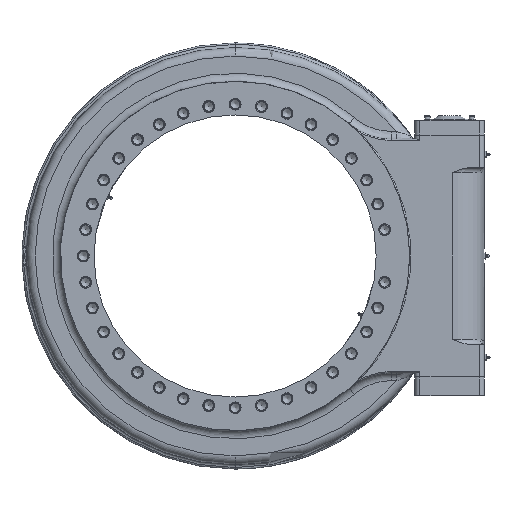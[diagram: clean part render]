
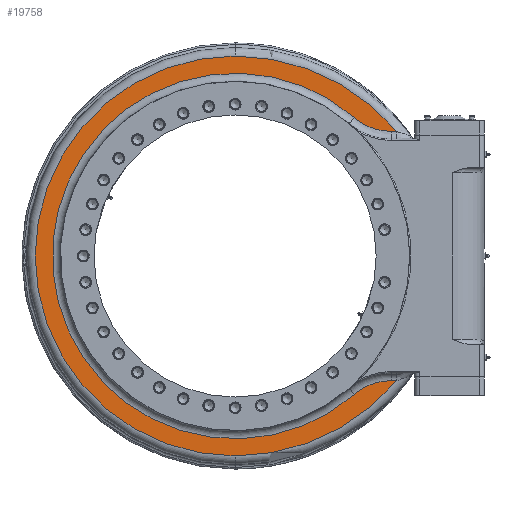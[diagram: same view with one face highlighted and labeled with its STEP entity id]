
A CAD part, left-side view. The second image highlights one B-rep face of the part: STEP entity #19758.
In plain terms, the highlighted planar face has unit normal (-1, 0, 0).
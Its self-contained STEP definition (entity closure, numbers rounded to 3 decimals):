
#346 = DIRECTION ( 'NONE',  ( -1., 0., 0. ) ) ;
#504 = CARTESIAN_POINT ( 'NONE',  ( -43., -290.613, -337. ) ) ;
#567 = CARTESIAN_POINT ( 'NONE',  ( -43., 0., 372. ) ) ;
#1527 = DIRECTION ( 'NONE',  ( 0., 0., 1. ) ) ;
#1775 = DIRECTION ( 'NONE',  ( 0., 0., 1. ) ) ;
#2169 = VERTEX_POINT ( 'NONE', #21787 ) ;
#2436 = CIRCLE ( 'NONE', #5397, 105. ) ;
#3154 = AXIS2_PLACEMENT_3D ( 'NONE', #35136, #35281, #38814 ) ;
#4619 = ORIENTED_EDGE ( 'NONE', *, *, #5037, .T. ) ;
#4711 = ORIENTED_EDGE ( 'NONE', *, *, #14561, .T. ) ;
#5037 = EDGE_CURVE ( 'NONE', #18373, #5225, #22461, .T. ) ;
#5225 = VERTEX_POINT ( 'NONE', #15343 ) ;
#5397 = AXIS2_PLACEMENT_3D ( 'NONE', #504, #346, #35864 ) ;
#9870 = AXIS2_PLACEMENT_3D ( 'NONE', #11137, #18229, #35555 ) ;
#10332 = EDGE_CURVE ( 'NONE', #44101, #43651, #20727, .T. ) ;
#11137 = CARTESIAN_POINT ( 'NONE',  ( -43., 0., -20. ) ) ;
#11148 = CARTESIAN_POINT ( 'NONE',  ( -43., 0., 20. ) ) ;
#11935 = CARTESIAN_POINT ( 'NONE',  ( -43., 0., -372. ) ) ;
#12999 = ORIENTED_EDGE ( 'NONE', *, *, #18603, .T. ) ;
#13967 = PLANE ( 'NONE',  #3154 ) ;
#14248 = DIRECTION ( 'NONE',  ( 0., 0., 1. ) ) ;
#14561 = EDGE_CURVE ( 'NONE', #5225, #36482, #36002, .T. ) ;
#14946 = VECTOR ( 'NONE', #19342, 1000. ) ;
#15343 = CARTESIAN_POINT ( 'NONE',  ( -43., -222.042, 257.483 ) ) ;
#16368 = EDGE_CURVE ( 'NONE', #31364, #28464, #24748, .T. ) ;
#17626 = ORIENTED_EDGE ( 'NONE', *, *, #31813, .T. ) ;
#18229 = DIRECTION ( 'NONE',  ( -1., 0., 0. ) ) ;
#18373 = VERTEX_POINT ( 'NONE', #34915 ) ;
#18603 = EDGE_CURVE ( 'NONE', #36482, #44101, #28818, .T. ) ;
#18658 = CARTESIAN_POINT ( 'NONE',  ( -43., -290.613, -232. ) ) ;
#18819 = CARTESIAN_POINT ( 'NONE',  ( -43., 0., 0. ) ) ;
#19319 = EDGE_CURVE ( 'NONE', #43651, #31364, #38616, .T. ) ;
#19342 = DIRECTION ( 'NONE',  ( 0., -1., 0. ) ) ;
#19758 = ADVANCED_FACE ( 'NONE', ( #29173 ), #13967, .T. ) ;
#19992 = ORIENTED_EDGE ( 'NONE', *, *, #33021, .T. ) ;
#20727 = CIRCLE ( 'NONE', #9870, 392. ) ;
#20763 = CARTESIAN_POINT ( 'NONE',  ( -43., -300.267, 232. ) ) ;
#21787 = CARTESIAN_POINT ( 'NONE',  ( -43., -290.613, -232. ) ) ;
#22006 = VECTOR ( 'NONE', #22545, 1000. ) ;
#22461 = CIRCLE ( 'NONE', #42403, 340. ) ;
#22545 = DIRECTION ( 'NONE',  ( 0., 1., 0. ) ) ;
#22721 = DIRECTION ( 'NONE',  ( 1., 0., 0. ) ) ;
#23572 = CARTESIAN_POINT ( 'NONE',  ( -43., -290.613, 337. ) ) ;
#24748 = CIRCLE ( 'NONE', #27326, 392. ) ;
#24990 = CARTESIAN_POINT ( 'NONE',  ( -43., -300.267, -232. ) ) ;
#27197 = ORIENTED_EDGE ( 'NONE', *, *, #16368, .T. ) ;
#27326 = AXIS2_PLACEMENT_3D ( 'NONE', #11148, #39423, #14248 ) ;
#28234 = ORIENTED_EDGE ( 'NONE', *, *, #19319, .T. ) ;
#28464 = VERTEX_POINT ( 'NONE', #24990 ) ;
#28818 = LINE ( 'NONE', #33280, #14946 ) ;
#29173 = FACE_OUTER_BOUND ( 'NONE', #33074, .T. ) ;
#30088 = DIRECTION ( 'NONE',  ( -1., 0., 0. ) ) ;
#30306 = LINE ( 'NONE', #18658, #22006 ) ;
#31364 = VERTEX_POINT ( 'NONE', #11935 ) ;
#31482 = DIRECTION ( 'NONE',  ( -1., 0., 0. ) ) ;
#31813 = EDGE_CURVE ( 'NONE', #28464, #2169, #30306, .T. ) ;
#32408 = DIRECTION ( 'NONE',  ( 0., 0., 1. ) ) ;
#33021 = EDGE_CURVE ( 'NONE', #2169, #18373, #2436, .T. ) ;
#33074 = EDGE_LOOP ( 'NONE', ( #4711, #12999, #40101, #28234, #27197, #17626, #19992, #4619 ) ) ;
#33280 = CARTESIAN_POINT ( 'NONE',  ( -43., -312.242, 232. ) ) ;
#33958 = CARTESIAN_POINT ( 'NONE',  ( -43., -290.613, 232. ) ) ;
#34915 = CARTESIAN_POINT ( 'NONE',  ( -43., -222.042, -257.483 ) ) ;
#35136 = CARTESIAN_POINT ( 'NONE',  ( -43., 0., 0. ) ) ;
#35281 = DIRECTION ( 'NONE',  ( -1., 0., 0. ) ) ;
#35555 = DIRECTION ( 'NONE',  ( 0., 0., 1. ) ) ;
#35864 = DIRECTION ( 'NONE',  ( 0., 0., 1. ) ) ;
#36002 = CIRCLE ( 'NONE', #43761, 105. ) ;
#36482 = VERTEX_POINT ( 'NONE', #33958 ) ;
#38616 = CIRCLE ( 'NONE', #44880, 372. ) ;
#38814 = DIRECTION ( 'NONE',  ( 0., 0., 1. ) ) ;
#39352 = CARTESIAN_POINT ( 'NONE',  ( -43., 0., 0. ) ) ;
#39423 = DIRECTION ( 'NONE',  ( -1., 0., 0. ) ) ;
#40101 = ORIENTED_EDGE ( 'NONE', *, *, #10332, .T. ) ;
#42403 = AXIS2_PLACEMENT_3D ( 'NONE', #18819, #22721, #1527 ) ;
#43651 = VERTEX_POINT ( 'NONE', #567 ) ;
#43761 = AXIS2_PLACEMENT_3D ( 'NONE', #23572, #30088, #1775 ) ;
#44101 = VERTEX_POINT ( 'NONE', #20763 ) ;
#44880 = AXIS2_PLACEMENT_3D ( 'NONE', #39352, #31482, #32408 ) ;
